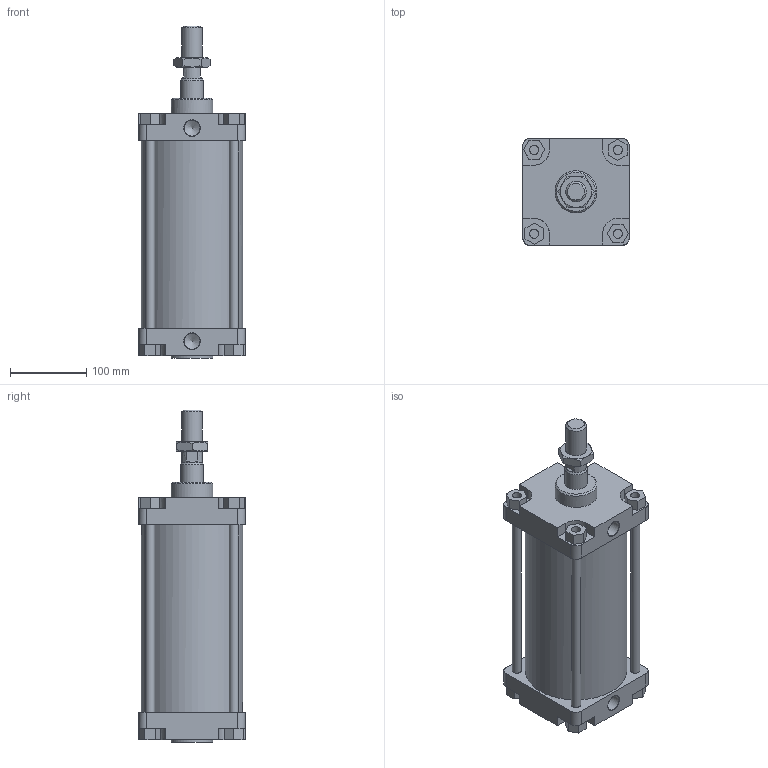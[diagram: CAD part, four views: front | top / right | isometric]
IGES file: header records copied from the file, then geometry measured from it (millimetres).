
Global section: file name: 1305_125_0150_01A; native system: Autodesk Inventor 2014; preprocessor: unknown; author: A. Manieri; date: 20161124.143241; units: millimetre
Bounding box: 140 x 140 x 436 mm (x, y, z)
Volume: 3205468.6 mm3; surface area: 480322.6 mm2
Topology: 9 solids, 9 shells, 175 faces, 440 edges, 295 vertices
Faces by surface type: bspline 175
